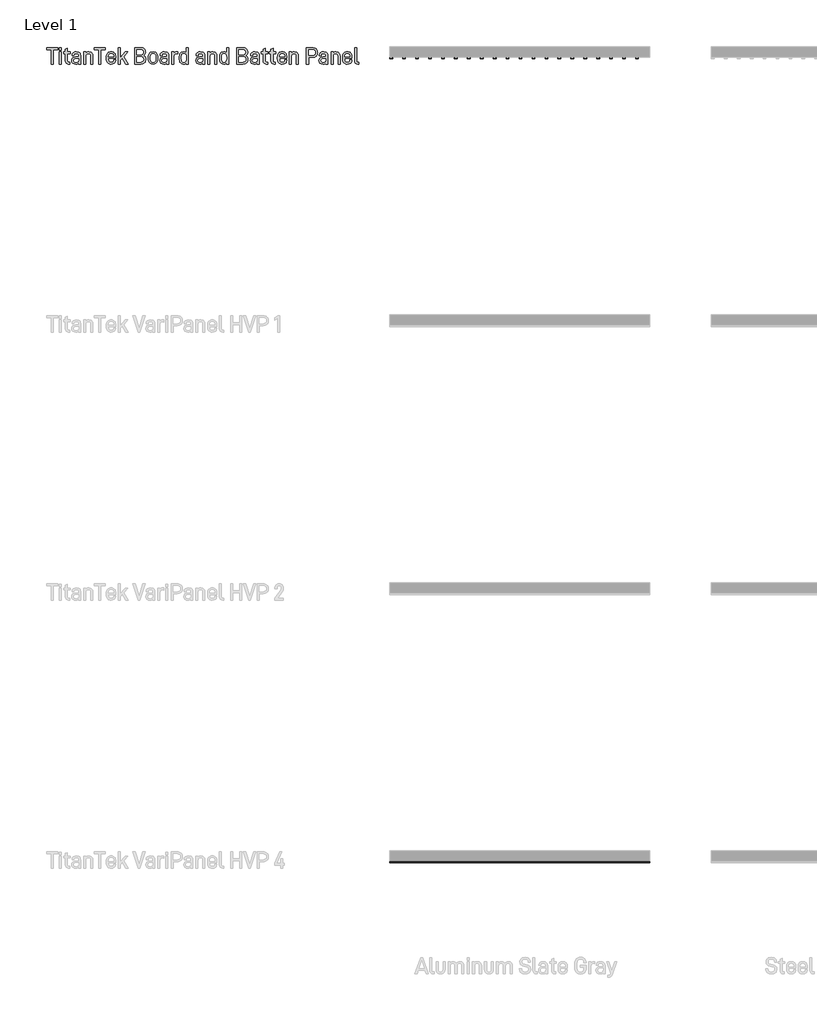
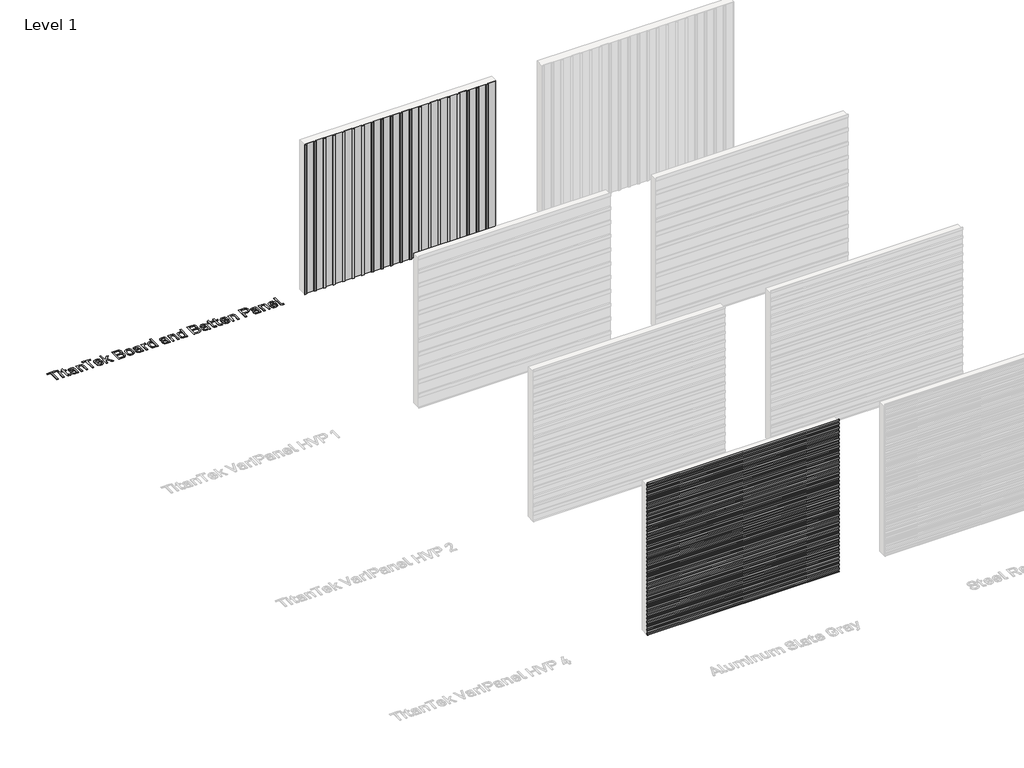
# One storey, part 4 of 9: 3 proxies.
"""IFC4 building model written with IfcOpenShell, lengths in millimetres."""

from ifc_helpers import new_model, si_unit, frame, origin, origin_with_axes, place, context, project, spatial, polyline, outline, extrude, transform, mapped, element, save
from components import titantek_board_and_batten_panel_aluminum_slate_gray_d83a0c41

model = new_model("IFC4")

# Units and contexts
model_context = context("Model", 3, world=origin())
ifc_project = project(units=[si_unit("LENGTHUNIT", "METRE", prefix="MILLI")], contexts=[model_context])

# Site, building, storey
site = spatial("IfcSite", under=ifc_project)
building = spatial("IfcBuilding", under=site)
storey = spatial("IfcBuildingStorey", under=building, Name="Level 1", Elevation=0.0)

# Proxies
placement = place(None, origin())
element("IfcBuildingElementProxy", 1, Name="600mm Arial 2", ObjectType="600mm Arial 2", at=placement, inside=storey, context=model_context, shape_type="SweptSolid", body=[
    extrude(outline(polyline([(-8638.9924556, -2779.5871657), (-8638.9924556, -3047.0126498), (-8678.4439015, -3047.0126498), (-8678.4439015, -2779.5871657), (-8762.8787304, -2779.5871657), (-8762.8787304, -2742.6833224), (-8554.5576267, -2742.6833224), (-8554.5576267, -2779.5871657), (-8638.9924556, -2779.5871657)])), origin_with_axes(), (0.0, 0.0, 1.0), 5.0),
    extrude(outline(polyline([(-8487.1553408, -2746.9778525), (-8487.1553408, -2794.1448949), (-8526.6067867, -2794.1448949), (-8526.6067867, -2746.9778525), (-8487.1553408, -2746.9778525)])), origin_with_axes(), (0.0, 0.0, 1.0), 5.0),
    extrude(outline(polyline([(-8488.0288046, -2821.1494824), (-8488.0288046, -3047.0126498), (-8525.733323, -3047.0126498), (-8525.733323, -2821.1494824), (-8488.0288046, -2821.1494824)])), origin_with_axes(), (0.0, 0.0, 1.0), 5.0),
    extrude(outline(polyline([(-8372.294858, -2987.398749), (-8370.8208879, -2998.4808203), (-8366.3989777, -3006.3965855), (-8359.0291273, -3011.1460446), (-8348.7113368, -3012.7291977), (-8327.2386864, -3012.7291977), (-8327.2386864, -3047.0126498), (-8353.3698101, -3047.0126498), (-8377.1535001, -3043.0456686), (-8395.3688587, -3031.144725), (-8406.6692959, -3012.6018175), (-8410.4361083, -2988.7089446), (-8410.4361083, -2852.8853319), (-8444.2828285, -2852.8853319), (-8444.2828285, -2821.1494824), (-8410.4361083, -2821.1494824), (-8410.4361083, -2773.1089763), (-8372.294858, -2755.1301808), (-8372.294858, -2821.1494824), (-8323.3808881, -2821.1494824), (-8323.3808881, -2852.8853319), (-8372.294858, -2852.8853319), (-8372.294858, -2987.398749)])), origin_with_axes(), (0.0, 0.0, 1.0), 5.0),
    extrude(outline(polyline([(-8146.8684225, -2837.8908709), (-8137.2830677, -2848.6590411), (-8130.4363858, -2861.7473495), (-8124.9590402, -2894.8843804), (-8124.9590402, -3047.0126498), (-8162.2996154, -3047.0126498), (-8162.2996154, -3030.7079931), (-8180.7151427, -3043.1548515), (-8197.7476858, -3047.9589022), (-8217.9829293, -3049.5602524), (-8250.0281305, -3045.2839194), (-8274.1029751, -3032.4549206), (-8289.2248162, -3010.6729184), (-8294.2654299, -2981.4300801), (-8289.1338304, -2953.7885919), (-8273.7390318, -2932.5888988), (-8249.063681, -2919.3777597), (-8217.1094655, -2914.9740466), (-8162.7363472, -2914.9740466), (-8162.7363472, -2894.4476485), (-8165.6296959, -2875.558995), (-8174.3097419, -2861.8383353), (-8188.2305704, -2853.8133871), (-8207.7197302, -2851.1384044), (-8226.2262434, -2853.3948524), (-8239.819523, -2860.1641964), (-8248.1720201, -2870.5183813), (-8250.9561857, -2884.5483927), (-8250.9561857, -2890.1531184), (-8287.8600291, -2890.1531184), (-8287.8600291, -2883.7477176), (-8282.4008807, -2856.7067358), (-8266.0234354, -2835.7072115), (-8240.8203668, -2822.5506638), (-8208.1564621, -2818.1651479), (-8172.6719974, -2823.0965787), (-8158.5600987, -2829.2608671), (-8146.8684225, -2837.8908709)]), holes=[polyline([(-8174.6736851, -3005.4503331), (-8165.7206817, -2990.5468579), (-8162.7363472, -2968.9832216), (-8162.7363472, -2945.0357572), (-8212.8149354, -2945.0357572), (-8231.9538, -2947.2831067), (-8245.6244175, -2954.025155), (-8253.826788, -2965.2619021), (-8256.5609115, -2980.9933482), (-8253.8540837, -2996.9477094), (-8245.7336004, -3008.3436818), (-8232.1994616, -3015.1812652), (-8213.2516673, -3017.4604596), (-8190.104878, -3014.457928), (-8174.6736851, -3005.4503331)])]), origin_with_axes(), (0.0, 0.0, 1.0), 5.0),
    extrude(outline(polyline([(-8030.6977441, -2821.1494824), (-8030.6977441, -2839.5650097), (-8012.2822167, -2826.3174762), (-7995.1222935, -2820.5307789), (-7976.2518372, -2818.6018798), (-7943.9154813, -2824.0610282), (-7930.7907787, -2830.8849637), (-7919.6950595, -2840.4384735), (-7911.0650557, -2852.0209667), (-7904.9007673, -2865.8053165), (-7899.9693365, -2899.9795856), (-7899.9693365, -3047.0126498), (-7937.673855, -3047.0126498), (-7937.673855, -2904.2741157), (-7940.6763866, -2881.8916072), (-7949.6839815, -2866.1328654), (-7964.3781893, -2856.5247642), (-7983.567096, -2853.3220637), (-8002.7378056, -2856.5247642), (-8017.3774219, -2866.1328654), (-8027.0401146, -2882.546705), (-8030.2610122, -2904.2741157), (-8030.2610122, -3047.0126498), (-8067.9655306, -3047.0126498), (-8067.9655306, -2821.1494824), (-8030.6977441, -2821.1494824)])), origin_with_axes(), (0.0, 0.0, 1.0), 5.0),
    extrude(outline(polyline([(-7749.2240514, -2779.5871657), (-7749.2240514, -3047.0126498), (-7788.6754974, -3047.0126498), (-7788.6754974, -2779.5871657), (-7873.1103263, -2779.5871657), (-7873.1103263, -2742.6833224), (-7664.7892225, -2742.6833224), (-7664.7892225, -2779.5871657), (-7749.2240514, -2779.5871657)])), origin_with_axes(), (0.0, 0.0, 1.0), 5.0),
    extrude(outline(polyline([(-7608.5235994, -2952.7513537), (-7605.1025331, -2982.1670651), (-7594.8393341, -3001.1194087), (-7578.3527058, -3011.4099035), (-7556.2613519, -3014.8400684), (-7536.990558, -3012.2742686), (-7522.8513635, -3004.5768694), (-7514.1713175, -2992.8033059), (-7511.2779689, -2977.13555), (-7511.2779689, -2971.6036129), (-7474.3741256, -2971.6036129), (-7474.3741256, -2978.0090137), (-7480.0516399, -3007.1608663), (-7487.1485329, -3019.471246), (-7497.084183, -3030.2712613), (-7523.7976159, -3044.7380046), (-7558.3722226, -3049.5602524), (-7577.3222916, -3048.0612612), (-7594.2843206, -3043.5642877), (-7609.2583098, -3036.0693318), (-7622.2442591, -3025.5763936), (-7632.7371973, -3011.9762901), (-7640.2321532, -2995.1598383), (-7644.7291267, -2975.1270383), (-7646.2281179, -2951.8778899), (-7646.2281179, -2914.1733715), (-7644.7314014, -2891.4678633), (-7640.2412518, -2871.8285769), (-7632.7576691, -2855.2555121), (-7622.2806535, -2841.7486691), (-7609.4971476, -2831.4308786), (-7594.7301511, -2824.0610282), (-7577.979664, -2819.639118), (-7559.2456864, -2818.1651479), (-7540.8438069, -2819.639118), (-7524.2161506, -2824.0610282), (-7509.3627176, -2831.4308786), (-7496.2835079, -2841.7486691), (-7485.9657174, -2855.0917377), (-7478.595867, -2871.610211), (-7474.1739568, -2891.3040889), (-7472.6999867, -2914.1733715), (-7472.6999867, -2944.1622935), (-7608.5235994, -2944.1622935), (-7608.5235994, -2952.7513537)]), holes=[polyline([(-7595.2760659, -2866.5695973), (-7605.2117161, -2884.69397), (-7608.5235994, -2913.2999077), (-7510.4045051, -2913.7366396), (-7510.4045051, -2910.3155733), (-7513.6254027, -2883.0744226), (-7523.2880954, -2865.6961335), (-7538.9012599, -2856.4155812), (-7559.2456864, -2853.3220637), (-7579.60831, -2856.6339471), (-7595.2760659, -2866.5695973)])]), origin_with_axes(), (0.0, 0.0, 1.0), 5.0),
    extrude(outline(polyline([(-7387.391694, -2979.6831526), (-7387.391694, -3047.0126498), (-7425.0962125, -3047.0126498), (-7425.0962125, -2742.6833224), (-7387.391694, -2742.6833224), (-7387.391694, -2929.1678325), (-7299.0990669, -2821.1494824), (-7252.3687564, -2821.1494824), (-7326.5403863, -2908.1319139), (-7241.6688255, -3047.0126498), (-7287.5256722, -3047.0126498), (-7351.7980463, -2937.3201608), (-7387.391694, -2979.6831526)])), origin_with_axes(), (0.0, 0.0, 1.0), 5.0),
    extrude(outline(polyline([(-6924.3103305, -2914.1733715), (-6914.3200889, -2935.882585), (-6910.9900084, -2961.7043571), (-6912.5708868, -2980.5748135), (-6917.313522, -2997.2980048), (-6925.217914, -3011.8739311), (-6936.2840627, -3024.3025923), (-6950.0570393, -3034.2382425), (-6966.0819146, -3041.3351354), (-7004.8873613, -3047.0126498), (-7120.1845759, -3047.0126498), (-7120.1845759, -2742.6833224), (-7007.4349639, -2742.6833224), (-6969.002559, -2748.051485), (-6953.3893945, -2754.7616883), (-6940.1782553, -2764.1559729), (-6929.4783244, -2776.1479022), (-6921.8355166, -2790.2870966), (-6917.2498319, -2806.5735561), (-6915.7212704, -2825.0072806), (-6918.9421679, -2847.8447182), (-6928.6048606, -2868.3165247), (-6940.0508752, -2881.3820866), (-6953.8625207, -2890.5898503), (-6937.0483435, -2900.7802607), (-6924.3103305, -2914.1733715)]), holes=[polyline([(-7080.2963981, -2873.4117299), (-7010.8560302, -2873.4117299), (-6987.5090721, -2870.5183813), (-6969.7304454, -2861.8383353), (-6959.1396975, -2847.262409), (-6955.6094482, -2826.6814194), (-6959.0305145, -2806.22781), (-6969.2937135, -2791.1605604), (-6986.4718339, -2782.1529655), (-7010.492087, -2779.1504339), (-7080.2963981, -2779.1504339), (-7080.2963981, -2873.4117299)]), polyline([(-6965.8726472, -2997.2980048), (-6954.6268014, -2981.648446), (-6950.8781862, -2959.5934864), (-6954.5176185, -2937.9206671), (-6965.4359153, -2922.689643), (-6983.432908, -2913.0815418), (-7008.3084276, -2909.8788414), (-7080.2963981, -2909.8788414), (-7080.2963981, -3010.5455383), (-7008.7451595, -3010.5455383), (-6983.8696398, -3007.2336549), (-6965.8726472, -2997.2980048)])]), origin_with_axes(), (0.0, 0.0, 1.0), 5.0),
    extrude(outline(polyline([(-6839.6571357, -3027.2869268), (-6850.1341514, -3014.3259986), (-6857.617734, -2998.1532714), (-6862.1078836, -2978.7687452), (-6863.6046001, -2956.17242), (-6863.6046001, -2911.5529802), (-6862.1056089, -2889.1477253), (-6857.6086354, -2869.8996778), (-6850.1136796, -2853.8088378), (-6839.6207414, -2840.8752053), (-6826.634792, -2830.9395552), (-6811.6608029, -2823.8426623), (-6775.7487048, -2818.1651479), (-6740.8647464, -2823.8426623), (-6726.1386935, -2830.9395552), (-6713.2232582, -2840.8752053), (-6702.7143975, -2853.6450634), (-6695.2080684, -2869.6813119), (-6690.704271, -2888.9839508), (-6689.2030052, -2911.5529802), (-6689.2030052, -2956.17242), (-6690.704271, -2978.7414495), (-6695.2080684, -2998.0440884), (-6702.7143975, -3014.0803369), (-6713.2232582, -3026.8501949), (-6726.1386935, -3036.7858451), (-6740.8647464, -3043.882738), (-6775.7487048, -3049.5602524), (-6811.8882674, -3043.991921), (-6826.8190383, -3037.0315067), (-6839.6571357, -3027.2869268)]), holes=[polyline([(-6740.2278458, -3001.5925349), (-6730.2376041, -2983.3589792), (-6726.9075236, -2954.4254925), (-6726.9075236, -2913.2999077), (-6730.2376041, -2884.69397), (-6740.2278458, -2866.5695973), (-6755.5134613, -2856.6339471), (-6775.7487048, -2853.3220637), (-6796.7664262, -2856.6339471), (-6812.6525482, -2866.5695973), (-6822.5881983, -2884.69397), (-6825.9000817, -2913.2999077), (-6825.9000817, -2954.4254925), (-6822.5881983, -2983.3589792), (-6812.6525482, -3001.5925349), (-6796.7664262, -3011.528185), (-6775.7487048, -3014.8400684), (-6755.5134613, -3011.528185), (-6740.2278458, -3001.5925349)])]), origin_with_axes(), (0.0, 0.0, 1.0), 5.0),
    extrude(outline(polyline([(-6502.4273405, -2837.8908709), (-6492.8419857, -2848.6590411), (-6485.9953037, -2861.7473495), (-6480.5179582, -2894.8843804), (-6480.5179582, -3047.0126498), (-6517.8585334, -3047.0126498), (-6517.8585334, -3030.7079931), (-6536.2740607, -3043.1548515), (-6553.3066038, -3047.9589022), (-6573.5418473, -3049.5602524), (-6605.5870485, -3045.2839194), (-6629.661893, -3032.4549206), (-6644.7837342, -3010.6729184), (-6649.8243479, -2981.4300801), (-6644.6927484, -2953.7885919), (-6629.2979498, -2932.5888988), (-6604.6225989, -2919.3777597), (-6572.6683835, -2914.9740466), (-6518.2952652, -2914.9740466), (-6518.2952652, -2894.4476485), (-6521.1886139, -2875.558995), (-6529.8686599, -2861.8383353), (-6543.7894884, -2853.8133871), (-6563.2786482, -2851.1384044), (-6581.7851614, -2853.3948524), (-6595.378441, -2860.1641964), (-6603.730938, -2870.5183813), (-6606.5151037, -2884.5483927), (-6606.5151037, -2890.1531184), (-6643.4189471, -2890.1531184), (-6643.4189471, -2883.7477176), (-6637.9597986, -2856.7067358), (-6621.5823534, -2835.7072115), (-6596.3792848, -2822.5506638), (-6563.7153801, -2818.1651479), (-6528.2309154, -2823.0965787), (-6514.1190167, -2829.2608671), (-6502.4273405, -2837.8908709)]), holes=[polyline([(-6530.2326031, -3005.4503331), (-6521.2795997, -2990.5468579), (-6518.2952652, -2968.9832216), (-6518.2952652, -2945.0357572), (-6568.3738534, -2945.0357572), (-6587.5127179, -2947.2831067), (-6601.1833354, -2954.025155), (-6609.3857059, -2965.2619021), (-6612.1198294, -2980.9933482), (-6609.4130017, -2996.9477094), (-6601.2925184, -3008.3436818), (-6587.7583796, -3015.1812652), (-6568.8105853, -3017.4604596), (-6545.663796, -3014.457928), (-6530.2326031, -3005.4503331)])]), origin_with_axes(), (0.0, 0.0, 1.0), 5.0),
    extrude(outline(polyline([(-6333.5576826, -2818.1651479), (-6313.3952278, -2820.2760186), (-6313.3952278, -2859.2907327), (-6339.9630834, -2853.686007), (-6358.2967236, -2857.2253549), (-6372.9727342, -2867.8433985), (-6382.6081312, -2884.2481396), (-6385.8199302, -2905.1475794), (-6385.8199302, -3047.0126498), (-6423.5244486, -3047.0126498), (-6423.5244486, -2821.1494824), (-6386.2566621, -2821.1494824), (-6386.2566621, -2840.8752053), (-6368.7145985, -2826.6814194), (-6352.6101106, -2820.2942158), (-6333.5576826, -2818.1651479)])), origin_with_axes(), (0.0, 0.0, 1.0), 5.0),
    extrude(outline(polyline([(-6153.9880939, -2742.6833224), (-6115.8468436, -2742.6833224), (-6115.8468436, -3047.0126498), (-6153.9880939, -3047.0126498), (-6153.9880939, -3027.7236587), (-6171.1662142, -3040.9711922), (-6187.7620254, -3047.4129873), (-6208.4340008, -3049.5602524), (-6239.2781894, -3043.773555), (-6252.448385, -3036.5401834), (-6264.1173147, -3026.413463), (-6273.6708244, -3013.6709008), (-6280.49476, -2997.7165395), (-6285.9539084, -2956.17242), (-6285.9539084, -2911.5529802), (-6280.49476, -2870.0088608), (-6273.6708244, -2854.0544995), (-6264.1173147, -2841.3119372), (-6252.4210892, -2831.1852169), (-6239.1690064, -2823.9518452), (-6207.9972689, -2818.1651479), (-6191.9291754, -2819.639118), (-6177.5716151, -2824.0610282), (-6164.9245879, -2831.4308786), (-6153.9880939, -2841.7486691), (-6153.9880939, -2742.6833224)]), holes=[polyline([(-6166.8716841, -2998.6082004), (-6157.2089914, -2979.0826462), (-6153.9880939, -2953.9887606), (-6153.9880939, -2915.8475103), (-6157.0998085, -2889.9347525), (-6166.4349523, -2869.5539317), (-6181.6113849, -2857.3800307), (-6202.3925432, -2853.3220637), (-6222.2638435, -2857.070679), (-6236.4576294, -2868.3165247), (-6244.9739009, -2887.059601), (-6247.8126581, -2913.2999077), (-6247.8126581, -2954.4254925), (-6245.0830839, -2980.8568695), (-6236.8943612, -2999.7364244), (-6223.2464902, -3011.0641574), (-6204.1394707, -3014.8400684), (-6182.3756657, -3010.7821014), (-6166.8716841, -2998.6082004)])]), origin_with_axes(), (0.0, 0.0, 1.0), 5.0),
    extrude(outline(polyline([(-5831.6071824, -2837.8908709), (-5822.0218276, -2848.6590411), (-5815.1751456, -2861.7473495), (-5809.6978001, -2894.8843804), (-5809.6978001, -3047.0126498), (-5847.0383753, -3047.0126498), (-5847.0383753, -3030.7079931), (-5865.4539026, -3043.1548515), (-5882.4864457, -3047.9589022), (-5902.7216892, -3049.5602524), (-5934.7668904, -3045.2839194), (-5958.8417349, -3032.4549206), (-5973.9635761, -3010.6729184), (-5979.0041898, -2981.4300801), (-5973.8725903, -2953.7885919), (-5958.4777917, -2932.5888988), (-5933.8024408, -2919.3777597), (-5901.8482254, -2914.9740466), (-5847.4751071, -2914.9740466), (-5847.4751071, -2894.4476485), (-5850.3684558, -2875.558995), (-5859.0485018, -2861.8383353), (-5872.9693303, -2853.8133871), (-5892.4584901, -2851.1384044), (-5910.9650033, -2853.3948524), (-5924.5582829, -2860.1641964), (-5932.9107799, -2870.5183813), (-5935.6949456, -2884.5483927), (-5935.6949456, -2890.1531184), (-5972.598789, -2890.1531184), (-5972.598789, -2883.7477176), (-5967.1396405, -2856.7067358), (-5950.7621953, -2835.7072115), (-5925.5591267, -2822.5506638), (-5892.895222, -2818.1651479), (-5857.4107573, -2823.0965787), (-5843.2988586, -2829.2608671), (-5831.6071824, -2837.8908709)]), holes=[polyline([(-5859.412445, -3005.4503331), (-5850.4594416, -2990.5468579), (-5847.4751071, -2968.9832216), (-5847.4751071, -2945.0357572), (-5897.5536953, -2945.0357572), (-5916.6925598, -2947.2831067), (-5930.3631773, -2954.025155), (-5938.5655478, -2965.2619021), (-5941.2996713, -2980.9933482), (-5938.5928436, -2996.9477094), (-5930.4723603, -3008.3436818), (-5916.9382215, -3015.1812652), (-5897.9904272, -3017.4604596), (-5874.8436379, -3014.457928), (-5859.412445, -3005.4503331)])]), origin_with_axes(), (0.0, 0.0, 1.0), 5.0),
    extrude(outline(polyline([(-5715.436504, -2821.1494824), (-5715.436504, -2839.5650097), (-5697.0209766, -2826.3174762), (-5679.8610534, -2820.5307789), (-5660.990597, -2818.6018798), (-5628.6542412, -2824.0610282), (-5615.5295385, -2830.8849637), (-5604.4338194, -2840.4384735), (-5595.8038156, -2852.0209667), (-5589.6395272, -2865.8053165), (-5584.7080964, -2899.9795856), (-5584.7080964, -3047.0126498), (-5622.4126149, -3047.0126498), (-5622.4126149, -2904.2741157), (-5625.4151465, -2881.8916072), (-5634.4227414, -2866.1328654), (-5649.1169492, -2856.5247642), (-5668.3058559, -2853.3220637), (-5687.4765655, -2856.5247642), (-5702.1161818, -2866.1328654), (-5711.7788745, -2882.546705), (-5714.9997721, -2904.2741157), (-5714.9997721, -3047.0126498), (-5752.7042905, -3047.0126498), (-5752.7042905, -2821.1494824), (-5715.436504, -2821.1494824)])), origin_with_axes(), (0.0, 0.0, 1.0), 5.0),
    extrude(outline(polyline([(-5403.9738893, -2742.6833224), (-5365.832639, -2742.6833224), (-5365.832639, -3047.0126498), (-5403.9738893, -3047.0126498), (-5403.9738893, -3027.7236587), (-5421.1520097, -3040.9711922), (-5437.7478209, -3047.4129873), (-5458.4197963, -3049.5602524), (-5489.2639848, -3043.773555), (-5502.4341804, -3036.5401834), (-5514.1031102, -3026.413463), (-5523.6566199, -3013.6709008), (-5530.4805554, -2997.7165395), (-5535.9397038, -2956.17242), (-5535.9397038, -2911.5529802), (-5530.4805554, -2870.0088608), (-5523.6566199, -2854.0544995), (-5514.1031102, -2841.3119372), (-5502.4068847, -2831.1852169), (-5489.1548019, -2823.9518452), (-5457.9830644, -2818.1651479), (-5441.9149709, -2819.639118), (-5427.5574105, -2824.0610282), (-5414.9103833, -2831.4308786), (-5403.9738893, -2841.7486691), (-5403.9738893, -2742.6833224)]), holes=[polyline([(-5416.8574796, -2998.6082004), (-5407.1947869, -2979.0826462), (-5403.9738893, -2953.9887606), (-5403.9738893, -2915.8475103), (-5407.0856039, -2889.9347525), (-5416.4207477, -2869.5539317), (-5431.5971803, -2857.3800307), (-5452.3783387, -2853.3220637), (-5472.2496389, -2857.070679), (-5486.4434248, -2868.3165247), (-5494.9596964, -2887.059601), (-5497.7984535, -2913.2999077), (-5497.7984535, -2954.4254925), (-5495.0688793, -2980.8568695), (-5486.8801567, -2999.7364244), (-5473.2322856, -3011.0641574), (-5454.1252662, -3014.8400684), (-5432.3614611, -3010.7821014), (-5416.8574796, -2998.6082004)])]), origin_with_axes(), (0.0, 0.0, 1.0), 5.0),
    extrude(outline(polyline([(-5018.9947426, -2914.1733715), (-5009.004501, -2935.882585), (-5005.6744204, -2961.7043571), (-5007.2552988, -2980.5748135), (-5011.997934, -2997.2980048), (-5019.902326, -3011.8739311), (-5030.9684748, -3024.3025923), (-5044.7414513, -3034.2382425), (-5060.7663266, -3041.3351354), (-5099.5717733, -3047.0126498), (-5214.868988, -3047.0126498), (-5214.868988, -2742.6833224), (-5102.1193759, -2742.6833224), (-5063.686971, -2748.051485), (-5048.0738065, -2754.7616883), (-5034.8626673, -2764.1559729), (-5024.1627364, -2776.1479022), (-5016.5199286, -2790.2870966), (-5011.934244, -2806.5735561), (-5010.4056824, -2825.0072806), (-5013.62658, -2847.8447182), (-5023.2892727, -2868.3165247), (-5034.7352872, -2881.3820866), (-5048.5469327, -2890.5898503), (-5031.7327556, -2900.7802607), (-5018.9947426, -2914.1733715)]), holes=[polyline([(-5174.9808102, -2873.4117299), (-5105.5404423, -2873.4117299), (-5082.1934842, -2870.5183813), (-5064.4148575, -2861.8383353), (-5053.8241095, -2847.262409), (-5050.2938602, -2826.6814194), (-5053.7149266, -2806.22781), (-5063.9781256, -2791.1605604), (-5081.156246, -2782.1529655), (-5105.176499, -2779.1504339), (-5174.9808102, -2779.1504339), (-5174.9808102, -2873.4117299)]), polyline([(-5060.5570593, -2997.2980048), (-5049.3112135, -2981.648446), (-5045.5625983, -2959.5934864), (-5049.2020305, -2937.9206671), (-5060.1203274, -2922.689643), (-5078.11732, -2913.0815418), (-5102.9928397, -2909.8788414), (-5174.9808102, -2909.8788414), (-5174.9808102, -3010.5455383), (-5103.4295715, -3010.5455383), (-5078.5540519, -3007.2336549), (-5060.5570593, -2997.2980048)])]), origin_with_axes(), (0.0, 0.0, 1.0), 5.0),
    extrude(outline(polyline([(-4816.0599986, -2837.8908709), (-4806.4746438, -2848.6590411), (-4799.6279618, -2861.7473495), (-4794.1506163, -2894.8843804), (-4794.1506163, -3047.0126498), (-4831.4911915, -3047.0126498), (-4831.4911915, -3030.7079931), (-4849.9067188, -3043.1548515), (-4866.9392619, -3047.9589022), (-4887.1745054, -3049.5602524), (-4919.2197066, -3045.2839194), (-4943.2945511, -3032.4549206), (-4958.4163923, -3010.6729184), (-4963.457006, -2981.4300801), (-4958.3254065, -2953.7885919), (-4942.9306079, -2932.5888988), (-4918.2552571, -2919.3777597), (-4886.3010416, -2914.9740466), (-4831.9279233, -2914.9740466), (-4831.9279233, -2894.4476485), (-4834.821272, -2875.558995), (-4843.501318, -2861.8383353), (-4857.4221465, -2853.8133871), (-4876.9113063, -2851.1384044), (-4895.4178195, -2853.3948524), (-4909.0110991, -2860.1641964), (-4917.3635961, -2870.5183813), (-4920.1477618, -2884.5483927), (-4920.1477618, -2890.1531184), (-4957.0516052, -2890.1531184), (-4957.0516052, -2883.7477176), (-4951.5924567, -2856.7067358), (-4935.2150115, -2835.7072115), (-4910.0119429, -2822.5506638), (-4877.3480382, -2818.1651479), (-4841.8635735, -2823.0965787), (-4827.7516748, -2829.2608671), (-4816.0599986, -2837.8908709)]), holes=[polyline([(-4843.8652612, -3005.4503331), (-4834.9122578, -2990.5468579), (-4831.9279233, -2968.9832216), (-4831.9279233, -2945.0357572), (-4882.0065115, -2945.0357572), (-4901.145376, -2947.2831067), (-4914.8159935, -2954.025155), (-4923.018364, -2965.2619021), (-4925.7524876, -2980.9933482), (-4923.0456598, -2996.9477094), (-4914.9251765, -3008.3436818), (-4901.3910377, -3015.1812652), (-4882.4432434, -3017.4604596), (-4859.2964541, -3014.457928), (-4843.8652612, -3005.4503331)])]), origin_with_axes(), (0.0, 0.0, 1.0), 5.0),
    extrude(outline(polyline([(-4682.7839884, -2987.398749), (-4681.3100184, -2998.4808203), (-4676.8881081, -3006.3965855), (-4669.5182578, -3011.1460446), (-4659.2004673, -3012.7291977), (-4637.7278168, -3012.7291977), (-4637.7278168, -3047.0126498), (-4663.8589406, -3047.0126498), (-4687.6426305, -3043.0456686), (-4705.8579891, -3031.144725), (-4717.1584263, -3012.6018175), (-4720.9252388, -2988.7089446), (-4720.9252388, -2852.8853319), (-4754.771959, -2852.8853319), (-4754.771959, -2821.1494824), (-4720.9252388, -2821.1494824), (-4720.9252388, -2773.1089763), (-4682.7839884, -2755.1301808), (-4682.7839884, -2821.1494824), (-4633.8700186, -2821.1494824), (-4633.8700186, -2852.8853319), (-4682.7839884, -2852.8853319), (-4682.7839884, -2987.398749)])), origin_with_axes(), (0.0, 0.0, 1.0), 5.0),
    extrude(outline(polyline([(-4538.3713155, -2987.398749), (-4536.8973454, -2998.4808203), (-4532.4754352, -3006.3965855), (-4525.1055849, -3011.1460446), (-4514.7877943, -3012.7291977), (-4493.3151439, -3012.7291977), (-4493.3151439, -3047.0126498), (-4519.4462677, -3047.0126498), (-4543.2299576, -3043.0456686), (-4561.4453162, -3031.144725), (-4572.7457534, -3012.6018175), (-4576.5125658, -2988.7089446), (-4576.5125658, -2852.8853319), (-4610.359286, -2852.8853319), (-4610.359286, -2821.1494824), (-4576.5125658, -2821.1494824), (-4576.5125658, -2773.1089763), (-4538.3713155, -2755.1301808), (-4538.3713155, -2821.1494824), (-4489.4573457, -2821.1494824), (-4489.4573457, -2852.8853319), (-4538.3713155, -2852.8853319), (-4538.3713155, -2987.398749)])), origin_with_axes(), (0.0, 0.0, 1.0), 5.0),
    extrude(outline(polyline([(-4417.4693751, -2952.7513537), (-4414.0483088, -2982.1670651), (-4403.7851098, -3001.1194087), (-4387.2984815, -3011.4099035), (-4365.2071276, -3014.8400684), (-4345.9363336, -3012.2742686), (-4331.7971392, -3004.5768694), (-4323.1170932, -2992.8033059), (-4320.2237446, -2977.13555), (-4320.2237446, -2971.6036129), (-4283.3199012, -2971.6036129), (-4283.3199012, -2978.0090137), (-4288.9974156, -3007.1608663), (-4296.0943085, -3019.471246), (-4306.0299587, -3030.2712613), (-4332.7433916, -3044.7380046), (-4367.3179983, -3049.5602524), (-4386.2680673, -3048.0612612), (-4403.2300963, -3043.5642877), (-4418.2040855, -3036.0693318), (-4431.1900348, -3025.5763936), (-4441.682973, -3011.9762901), (-4449.1779289, -2995.1598383), (-4453.6749024, -2975.1270383), (-4455.1738936, -2951.8778899), (-4455.1738936, -2914.1733715), (-4453.677177, -2891.4678633), (-4449.1870275, -2871.8285769), (-4441.7034448, -2855.2555121), (-4431.2264292, -2841.7486691), (-4418.4429233, -2831.4308786), (-4403.6759268, -2824.0610282), (-4386.9254397, -2819.639118), (-4368.191462, -2818.1651479), (-4349.7895826, -2819.639118), (-4333.1619263, -2824.0610282), (-4318.3084933, -2831.4308786), (-4305.2292836, -2841.7486691), (-4294.9114931, -2855.0917377), (-4287.5416427, -2871.610211), (-4283.1197325, -2891.3040889), (-4281.6457624, -2914.1733715), (-4281.6457624, -2944.1622935), (-4417.4693751, -2944.1622935), (-4417.4693751, -2952.7513537)]), holes=[polyline([(-4404.2218416, -2866.5695973), (-4414.1574918, -2884.69397), (-4417.4693751, -2913.2999077), (-4319.3502808, -2913.7366396), (-4319.3502808, -2910.3155733), (-4322.5711784, -2883.0744226), (-4332.2338711, -2865.6961335), (-4347.8470356, -2856.4155812), (-4368.191462, -2853.3220637), (-4388.5540857, -2856.6339471), (-4404.2218416, -2866.5695973)])]), origin_with_axes(), (0.0, 0.0, 1.0), 5.0),
    extrude(outline(polyline([(-4196.7742016, -2821.1494824), (-4196.7742016, -2839.5650097), (-4178.3586742, -2826.3174762), (-4161.198751, -2820.5307789), (-4142.3282947, -2818.6018798), (-4109.9919388, -2824.0610282), (-4096.8672362, -2830.8849637), (-4085.771517, -2840.4384735), (-4077.1415132, -2852.0209667), (-4070.9772248, -2865.8053165), (-4066.045794, -2899.9795856), (-4066.045794, -3047.0126498), (-4103.7503125, -3047.0126498), (-4103.7503125, -2904.2741157), (-4106.7528441, -2881.8916072), (-4115.760439, -2866.1328654), (-4130.4546468, -2856.5247642), (-4149.6435535, -2853.3220637), (-4168.8142631, -2856.5247642), (-4183.4538794, -2866.1328654), (-4193.1165721, -2882.546705), (-4196.3374697, -2904.2741157), (-4196.3374697, -3047.0126498), (-4234.0419882, -3047.0126498), (-4234.0419882, -2821.1494824), (-4196.7742016, -2821.1494824)])), origin_with_axes(), (0.0, 0.0, 1.0), 5.0),
    extrude(outline(polyline([(-3733.4016835, -2766.7035755), (-3721.9693169, -2780.1603763), (-3713.8033407, -2796.073794), (-3708.903755, -2814.4438284), (-3707.2705597, -2835.2704796), (-3708.9310507, -2854.955259), (-3713.9125237, -2872.4472804), (-3722.2149786, -2887.7465438), (-3733.8384154, -2900.8530493), (-3747.8957226, -2911.3619101), (-3764.3732522, -2918.8682391), (-3783.2710044, -2923.3720366), (-3804.588979, -2924.8733024), (-3875.2667539, -2924.8733024), (-3875.2667539, -3047.0126498), (-3915.1549317, -3047.0126498), (-3915.1549317, -2742.6833224), (-3804.588979, -2742.6833224), (-3783.4074831, -2744.1845882), (-3764.4824352, -2748.6883857), (-3747.8138354, -2756.1947147), (-3733.4016835, -2766.7035755)]), holes=[polyline([(-3762.1531985, -2874.7219256), (-3750.9073528, -2858.4172689), (-3747.1587376, -2835.2704796), (-3751.0165358, -2810.6497202), (-3762.5899304, -2793.2714311), (-3781.6605556, -2783.0082321), (-3807.1365815, -2779.5871657), (-3875.2667539, -2779.5871657), (-3875.2667539, -2887.9694591), (-3807.1365815, -2887.9694591), (-3780.8962748, -2884.6575757), (-3762.1531985, -2874.7219256)])]), origin_with_axes(), (0.0, 0.0, 1.0), 5.0),
    extrude(outline(polyline([(-3534.9798355, -2837.8908709), (-3525.3944808, -2848.6590411), (-3518.5477988, -2861.7473495), (-3513.0704532, -2894.8843804), (-3513.0704532, -3047.0126498), (-3550.4110284, -3047.0126498), (-3550.4110284, -3030.7079931), (-3568.8265558, -3043.1548515), (-3585.8590988, -3047.9589022), (-3606.0943423, -3049.5602524), (-3638.1395436, -3045.2839194), (-3662.2143881, -3032.4549206), (-3677.3362292, -3010.6729184), (-3682.3768429, -2981.4300801), (-3677.2452434, -2953.7885919), (-3661.8504449, -2932.5888988), (-3637.175094, -2919.3777597), (-3605.2208786, -2914.9740466), (-3550.8477603, -2914.9740466), (-3550.8477603, -2894.4476485), (-3553.741109, -2875.558995), (-3562.4211549, -2861.8383353), (-3576.3419834, -2853.8133871), (-3595.8311433, -2851.1384044), (-3614.3376564, -2853.3948524), (-3627.930936, -2860.1641964), (-3636.2834331, -2870.5183813), (-3639.0675988, -2884.5483927), (-3639.0675988, -2890.1531184), (-3675.9714421, -2890.1531184), (-3675.9714421, -2883.7477176), (-3670.5122937, -2856.7067358), (-3654.1348484, -2835.7072115), (-3628.9317799, -2822.5506638), (-3596.2678752, -2818.1651479), (-3560.7834104, -2823.0965787), (-3546.6715118, -2829.2608671), (-3534.9798355, -2837.8908709)]), holes=[polyline([(-3562.7850982, -3005.4503331), (-3553.8320948, -2990.5468579), (-3550.8477603, -2968.9832216), (-3550.8477603, -2945.0357572), (-3600.9263485, -2945.0357572), (-3620.065213, -2947.2831067), (-3633.7358305, -2954.025155), (-3641.938201, -2965.2619021), (-3644.6723245, -2980.9933482), (-3641.9654967, -2996.9477094), (-3633.8450135, -3008.3436818), (-3620.3108747, -3015.1812652), (-3601.3630804, -3017.4604596), (-3578.216291, -3014.457928), (-3562.7850982, -3005.4503331)])]), origin_with_axes(), (0.0, 0.0, 1.0), 5.0),
    extrude(outline(polyline([(-3418.8091571, -2821.1494824), (-3418.8091571, -2839.5650097), (-3400.3936298, -2826.3174762), (-3383.2337066, -2820.5307789), (-3364.3632502, -2818.6018798), (-3332.0268944, -2824.0610282), (-3318.9021917, -2830.8849637), (-3307.8064725, -2840.4384735), (-3299.1764687, -2852.0209667), (-3293.0121803, -2865.8053165), (-3288.0807496, -2899.9795856), (-3288.0807496, -3047.0126498), (-3325.785268, -3047.0126498), (-3325.785268, -2904.2741157), (-3328.7877996, -2881.8916072), (-3337.7953945, -2866.1328654), (-3352.4896024, -2856.5247642), (-3371.6785091, -2853.3220637), (-3390.8492186, -2856.5247642), (-3405.488835, -2866.1328654), (-3415.1515277, -2882.546705), (-3418.3724253, -2904.2741157), (-3418.3724253, -3047.0126498), (-3456.0769437, -3047.0126498), (-3456.0769437, -2821.1494824), (-3418.8091571, -2821.1494824)])), origin_with_axes(), (0.0, 0.0, 1.0), 5.0),
    extrude(outline(polyline([(-3201.6078386, -2952.7513537), (-3198.1867722, -2982.1670651), (-3187.9235732, -3001.1194087), (-3171.436945, -3011.4099035), (-3149.345591, -3014.8400684), (-3130.0747971, -3012.2742686), (-3115.9356027, -3004.5768694), (-3107.2555567, -2992.8033059), (-3104.362208, -2977.13555), (-3104.362208, -2971.6036129), (-3067.4583647, -2971.6036129), (-3067.4583647, -2978.0090137), (-3073.135879, -3007.1608663), (-3080.232772, -3019.471246), (-3090.1684221, -3030.2712613), (-3116.8818551, -3044.7380046), (-3151.4564617, -3049.5602524), (-3170.4065307, -3048.0612612), (-3187.3685598, -3043.5642877), (-3202.342549, -3036.0693318), (-3215.3284983, -3025.5763936), (-3225.8214365, -3011.9762901), (-3233.3163923, -2995.1598383), (-3237.8133658, -2975.1270383), (-3239.312357, -2951.8778899), (-3239.312357, -2914.1733715), (-3237.8156405, -2891.4678633), (-3233.3254909, -2871.8285769), (-3225.8419083, -2855.2555121), (-3215.3648926, -2841.7486691), (-3202.5813867, -2831.4308786), (-3187.8143902, -2824.0610282), (-3171.0639032, -2819.639118), (-3152.3299255, -2818.1651479), (-3133.928046, -2819.639118), (-3117.3003898, -2824.0610282), (-3102.4469568, -2831.4308786), (-3089.367747, -2841.7486691), (-3079.0499565, -2855.0917377), (-3071.6801061, -2871.610211), (-3067.2581959, -2891.3040889), (-3065.7842258, -2914.1733715), (-3065.7842258, -2944.1622935), (-3201.6078386, -2944.1622935), (-3201.6078386, -2952.7513537)]), holes=[polyline([(-3188.3603051, -2866.5695973), (-3198.2959552, -2884.69397), (-3201.6078386, -2913.2999077), (-3103.4887443, -2913.7366396), (-3103.4887443, -2910.3155733), (-3106.7096418, -2883.0744226), (-3116.3723345, -2865.6961335), (-3131.985499, -2856.4155812), (-3152.3299255, -2853.3220637), (-3172.6925491, -2856.6339471), (-3188.3603051, -2866.5695973)])]), origin_with_axes(), (0.0, 0.0, 1.0), 5.0),
    extrude(outline(polyline([(-3003.1859906, -3031.144725), (-3014.4318363, -3011.637368), (-3018.1804516, -2985.7246101), (-3018.1804516, -2742.6833224), (-2980.4759332, -2742.6833224), (-2980.4759332, -2983.9776826), (-2979.0929489, -2997.3889906), (-2974.9439961, -3005.887065), (-2967.9562861, -3010.3635667), (-2957.3291438, -3011.8557339), (-2935.4925502, -3011.8557339), (-2935.4925502, -3047.0126498), (-2960.3134783, -3047.0126498), (-2985.188998, -3043.0456686), (-3003.1859906, -3031.144725)])), origin_with_axes(), (0.0, 0.0, 1.0), 5.0),
])
element("IfcBuildingElementProxy", 2, Name="TitanTek VariPanel HVP 4 : Aluminum Slate Gray", ObjectType="TitanTek VariPanel HVP 4 : Aluminum Slate Gray", at=placement, inside=storey, context=model_context, shape_type="SweptSolid", body=[
    extrude(outline(polyline([(-17945.79831, 375.054257), (-17921.3904975, 350.0739785), (-17921.3904975, 318.3239785), (-17945.79831, 308.9546971), (-17945.79831, 272.0693579), (-17921.3904975, 247.0890794), (-17921.3904975, 215.3390794), (-17945.79831, 205.9697981), (-17945.79831, 169.0844589), (-17921.3904975, 144.1041804), (-17921.3904975, 112.3541804), (-17945.79831, 102.984899), (-17945.79831, 66.0995599), (-17921.3904975, 41.1192814), (-17921.3904975, 9.3692814), (-17945.79831, 0.0), (-17945.79831, 1.0627767), (-17922.382685, 10.051193), (-17922.382685, 40.7150244), (-17946.7904975, 65.6953029), (-17946.7904975, 103.6668106), (-17922.382685, 113.036092), (-17922.382685, 143.6999234), (-17946.7904975, 168.6802019), (-17946.7904975, 206.6517096), (-17922.382685, 216.020991), (-17922.382685, 246.6848225), (-17946.7904975, 271.665101), (-17946.7904975, 309.6366087), (-17922.382685, 319.00589), (-17922.382685, 349.6697215), (-17946.7904975, 374.65), (-17946.7904975, 407.0819116), (-17945.79831, 407.4627767), (-17945.79831, 375.054257)])), frame((-2360.5897817, 0.0, 0.0), z_axis=(1.0, 0.0, 0.0), x_axis=(0.0, 1.0, 0.0)), (0.0, 0.0, 1.0), 4850.0),
    extrude(outline(polyline([(-17945.79831, 781.454257), (-17921.3904975, 756.4739785), (-17921.3904975, 724.7239785), (-17945.79831, 715.3546971), (-17945.79831, 678.4693579), (-17921.3904975, 653.4890794), (-17921.3904975, 621.7390794), (-17945.79831, 612.3697981), (-17945.79831, 575.4844589), (-17921.3904975, 550.5041804), (-17921.3904975, 518.7541804), (-17945.79831, 509.384899), (-17945.79831, 472.4995599), (-17921.3904975, 447.5192814), (-17921.3904975, 415.7692814), (-17945.79831, 406.4), (-17945.79831, 407.4627767), (-17922.382685, 416.451193), (-17922.382685, 447.1150244), (-17946.7904975, 472.0953029), (-17946.7904975, 510.0668106), (-17922.382685, 519.436092), (-17922.382685, 550.0999234), (-17946.7904975, 575.0802019), (-17946.7904975, 613.0517096), (-17922.382685, 622.420991), (-17922.382685, 653.0848225), (-17946.7904975, 678.065101), (-17946.7904975, 716.0366087), (-17922.382685, 725.40589), (-17922.382685, 756.0697215), (-17946.7904975, 781.05), (-17946.7904975, 813.4819116), (-17945.79831, 813.8627767), (-17945.79831, 781.454257)])), frame((-2360.5897817, 0.0, 0.0), z_axis=(1.0, 0.0, 0.0), x_axis=(0.0, 1.0, 0.0)), (0.0, 0.0, 1.0), 4850.0),
    extrude(outline(polyline([(-17945.79831, 1187.854257), (-17921.3904975, 1162.8739785), (-17921.3904975, 1131.1239785), (-17945.79831, 1121.7546971), (-17945.79831, 1084.8693579), (-17921.3904975, 1059.8890794), (-17921.3904975, 1028.1390794), (-17945.79831, 1018.7697981), (-17945.79831, 981.8844589), (-17921.3904975, 956.9041804), (-17921.3904975, 925.1541804), (-17945.79831, 915.784899), (-17945.79831, 878.8995599), (-17921.3904975, 853.9192814), (-17921.3904975, 822.1692814), (-17945.79831, 812.8), (-17945.79831, 813.8627767), (-17922.382685, 822.851193), (-17922.382685, 853.5150244), (-17946.7904975, 878.4953029), (-17946.7904975, 916.4668106), (-17922.382685, 925.836092), (-17922.382685, 956.4999234), (-17946.7904975, 981.4802019), (-17946.7904975, 1019.4517096), (-17922.382685, 1028.820991), (-17922.382685, 1059.4848225), (-17946.7904975, 1084.465101), (-17946.7904975, 1122.4366087), (-17922.382685, 1131.80589), (-17922.382685, 1162.4697215), (-17946.7904975, 1187.45), (-17946.7904975, 1219.8819116), (-17945.79831, 1220.2627767), (-17945.79831, 1187.854257)])), frame((-2360.5897817, 0.0, 0.0), z_axis=(1.0, 0.0, 0.0), x_axis=(0.0, 1.0, 0.0)), (0.0, 0.0, 1.0), 4850.0),
    extrude(outline(polyline([(-17945.79831, 1594.254257), (-17921.3904975, 1569.2739785), (-17921.3904975, 1537.5239785), (-17945.79831, 1528.1546971), (-17945.79831, 1491.2693579), (-17921.3904975, 1466.2890794), (-17921.3904975, 1434.5390794), (-17945.79831, 1425.1697981), (-17945.79831, 1388.2844589), (-17921.3904975, 1363.3041804), (-17921.3904975, 1331.5541804), (-17945.79831, 1322.184899), (-17945.79831, 1285.2995599), (-17921.3904975, 1260.3192814), (-17921.3904975, 1228.5692814), (-17945.79831, 1219.2), (-17945.79831, 1220.2627767), (-17922.382685, 1229.251193), (-17922.382685, 1259.9150244), (-17946.7904975, 1284.8953029), (-17946.7904975, 1322.8668106), (-17922.382685, 1332.236092), (-17922.382685, 1362.8999234), (-17946.7904975, 1387.8802019), (-17946.7904975, 1425.8517096), (-17922.382685, 1435.220991), (-17922.382685, 1465.8848225), (-17946.7904975, 1490.865101), (-17946.7904975, 1528.8366087), (-17922.382685, 1538.20589), (-17922.382685, 1568.8697215), (-17946.7904975, 1593.85), (-17946.7904975, 1626.2819116), (-17945.79831, 1626.6627767), (-17945.79831, 1594.254257)])), frame((-2360.5897817, 0.0, 0.0), z_axis=(1.0, 0.0, 0.0), x_axis=(0.0, 1.0, 0.0)), (0.0, 0.0, 1.0), 4850.0),
    extrude(outline(polyline([(-17945.79831, 2000.654257), (-17921.3904975, 1975.6739785), (-17921.3904975, 1943.9239785), (-17945.79831, 1934.5546971), (-17945.79831, 1897.6693579), (-17921.3904975, 1872.6890794), (-17921.3904975, 1840.9390794), (-17945.79831, 1831.5697981), (-17945.79831, 1794.6844589), (-17921.3904975, 1769.7041804), (-17921.3904975, 1737.9541804), (-17945.79831, 1728.584899), (-17945.79831, 1691.6995599), (-17921.3904975, 1666.7192814), (-17921.3904975, 1634.9692814), (-17945.79831, 1625.6), (-17945.79831, 1626.6627767), (-17922.382685, 1635.651193), (-17922.382685, 1666.3150244), (-17946.7904975, 1691.2953029), (-17946.7904975, 1729.2668106), (-17922.382685, 1738.636092), (-17922.382685, 1769.2999234), (-17946.7904975, 1794.2802019), (-17946.7904975, 1832.2517096), (-17922.382685, 1841.620991), (-17922.382685, 1872.2848225), (-17946.7904975, 1897.265101), (-17946.7904975, 1935.2366087), (-17922.382685, 1944.60589), (-17922.382685, 1975.2697215), (-17946.7904975, 2000.25), (-17946.7904975, 2032.6819116), (-17945.79831, 2033.0627767), (-17945.79831, 2000.654257)])), frame((-2360.5897817, 0.0, 0.0), z_axis=(1.0, 0.0, 0.0), x_axis=(0.0, 1.0, 0.0)), (0.0, 0.0, 1.0), 4850.0),
    extrude(outline(polyline([(-17945.79831, 2407.054257), (-17921.3904975, 2382.0739785), (-17921.3904975, 2350.3239785), (-17945.79831, 2340.9546971), (-17945.79831, 2304.0693579), (-17921.3904975, 2279.0890794), (-17921.3904975, 2247.3390794), (-17945.79831, 2237.9697981), (-17945.79831, 2201.0844589), (-17921.3904975, 2176.1041804), (-17921.3904975, 2144.3541804), (-17945.79831, 2134.984899), (-17945.79831, 2098.0995599), (-17921.3904975, 2073.1192814), (-17921.3904975, 2041.3692814), (-17945.79831, 2032.0), (-17945.79831, 2033.0627767), (-17922.382685, 2042.051193), (-17922.382685, 2072.7150244), (-17946.7904975, 2097.6953029), (-17946.7904975, 2135.6668106), (-17922.382685, 2145.036092), (-17922.382685, 2175.6999234), (-17946.7904975, 2200.6802019), (-17946.7904975, 2238.6517096), (-17922.382685, 2248.020991), (-17922.382685, 2278.6848225), (-17946.7904975, 2303.665101), (-17946.7904975, 2341.6366087), (-17922.382685, 2351.00589), (-17922.382685, 2381.6697215), (-17946.7904975, 2406.65), (-17946.7904975, 2439.0819116), (-17945.79831, 2439.4627767), (-17945.79831, 2407.054257)])), frame((-2360.5897817, 0.0, 0.0), z_axis=(1.0, 0.0, 0.0), x_axis=(0.0, 1.0, 0.0)), (0.0, 0.0, 1.0), 4850.0),
    extrude(outline(polyline([(-17945.79831, 2813.454257), (-17921.3904975, 2788.4739785), (-17921.3904975, 2756.7239785), (-17945.79831, 2747.3546971), (-17945.79831, 2710.4693579), (-17921.3904975, 2685.4890794), (-17921.3904975, 2653.7390794), (-17945.79831, 2644.3697981), (-17945.79831, 2607.4844589), (-17921.3904975, 2582.5041804), (-17921.3904975, 2550.7541804), (-17945.79831, 2541.384899), (-17945.79831, 2504.4995599), (-17921.3904975, 2479.5192814), (-17921.3904975, 2447.7692814), (-17945.79831, 2438.4), (-17945.79831, 2439.4627767), (-17922.382685, 2448.451193), (-17922.382685, 2479.1150244), (-17946.7904975, 2504.0953029), (-17946.7904975, 2542.0668106), (-17922.382685, 2551.436092), (-17922.382685, 2582.0999234), (-17946.7904975, 2607.0802019), (-17946.7904975, 2645.0517096), (-17922.382685, 2654.420991), (-17922.382685, 2685.0848225), (-17946.7904975, 2710.065101), (-17946.7904975, 2748.0366087), (-17922.382685, 2757.40589), (-17922.382685, 2788.0697215), (-17946.7904975, 2813.05), (-17946.7904975, 2845.4819116), (-17945.79831, 2845.8627767), (-17945.79831, 2813.454257)])), frame((-2360.5897817, 0.0, 0.0), z_axis=(1.0, 0.0, 0.0), x_axis=(0.0, 1.0, 0.0)), (0.0, 0.0, 1.0), 4850.0),
    extrude(outline(polyline([(-17945.79831, 3219.854257), (-17921.3904975, 3194.8739785), (-17921.3904975, 3163.1239785), (-17945.79831, 3153.7546971), (-17945.79831, 3116.8693579), (-17921.3904975, 3091.8890794), (-17921.3904975, 3060.1390794), (-17945.79831, 3050.7697981), (-17945.79831, 3013.8844589), (-17921.3904975, 2988.9041804), (-17921.3904975, 2957.1541804), (-17945.79831, 2947.784899), (-17945.79831, 2910.8995599), (-17921.3904975, 2885.9192814), (-17921.3904975, 2854.1692814), (-17945.79831, 2844.8), (-17945.79831, 2845.8627767), (-17922.382685, 2854.851193), (-17922.382685, 2885.5150244), (-17946.7904975, 2910.4953029), (-17946.7904975, 2948.4668106), (-17922.382685, 2957.836092), (-17922.382685, 2988.4999234), (-17946.7904975, 3013.4802019), (-17946.7904975, 3051.4517096), (-17922.382685, 3060.820991), (-17922.382685, 3091.4848225), (-17946.7904975, 3116.465101), (-17946.7904975, 3154.4366087), (-17922.382685, 3163.80589), (-17922.382685, 3194.4697215), (-17946.7904975, 3219.45), (-17946.7904975, 3251.8819116), (-17945.79831, 3252.2627767), (-17945.79831, 3219.854257)])), frame((-2360.5897817, 0.0, 0.0), z_axis=(1.0, 0.0, 0.0), x_axis=(0.0, 1.0, 0.0)), (0.0, 0.0, 1.0), 4850.0),
    extrude(outline(polyline([(-17945.79831, 3626.254257), (-17921.3904975, 3601.2739785), (-17921.3904975, 3569.5239785), (-17945.79831, 3560.1546971), (-17945.79831, 3523.2693579), (-17921.3904975, 3498.2890794), (-17921.3904975, 3466.5390794), (-17945.79831, 3457.1697981), (-17945.79831, 3420.2844589), (-17921.3904975, 3395.3041804), (-17921.3904975, 3363.5541804), (-17945.79831, 3354.184899), (-17945.79831, 3317.2995599), (-17921.3904975, 3292.3192814), (-17921.3904975, 3260.5692814), (-17945.79831, 3251.2), (-17945.79831, 3252.2627767), (-17922.382685, 3261.251193), (-17922.382685, 3291.9150244), (-17946.7904975, 3316.8953029), (-17946.7904975, 3354.8668106), (-17922.382685, 3364.236092), (-17922.382685, 3394.8999234), (-17946.7904975, 3419.8802019), (-17946.7904975, 3457.8517096), (-17922.382685, 3467.220991), (-17922.382685, 3497.8848225), (-17946.7904975, 3522.865101), (-17946.7904975, 3560.8366087), (-17922.382685, 3570.20589), (-17922.382685, 3600.8697215), (-17946.7904975, 3625.85), (-17946.7904975, 3658.2819116), (-17945.79831, 3658.6627767), (-17945.79831, 3626.254257)])), frame((-2360.5897817, 0.0, 0.0), z_axis=(1.0, 0.0, 0.0), x_axis=(0.0, 1.0, 0.0)), (0.0, 0.0, 1.0), 4850.0),
    extrude(outline(polyline([(-17945.79831, 4032.654257), (-17921.3904975, 4007.6739785), (-17921.3904975, 3975.9239785), (-17945.79831, 3966.5546971), (-17945.79831, 3929.6693579), (-17921.3904975, 3904.6890794), (-17921.3904975, 3872.9390794), (-17945.79831, 3863.5697981), (-17945.79831, 3826.6844589), (-17921.3904975, 3801.7041804), (-17921.3904975, 3769.9541804), (-17945.79831, 3760.584899), (-17945.79831, 3723.6995599), (-17921.3904975, 3698.7192814), (-17921.3904975, 3666.9692814), (-17945.79831, 3657.6), (-17945.79831, 3658.6627767), (-17922.382685, 3667.651193), (-17922.382685, 3698.3150244), (-17946.7904975, 3723.2953029), (-17946.7904975, 3761.2668106), (-17922.382685, 3770.636092), (-17922.382685, 3801.2999234), (-17946.7904975, 3826.2802019), (-17946.7904975, 3864.2517096), (-17922.382685, 3873.620991), (-17922.382685, 3904.2848225), (-17946.7904975, 3929.265101), (-17946.7904975, 3967.2366087), (-17922.382685, 3976.60589), (-17922.382685, 4007.2697215), (-17946.7904975, 4032.25), (-17946.7904975, 4064.6819116), (-17945.79831, 4065.0627767), (-17945.79831, 4032.654257)])), frame((-2360.5897817, 0.0, 0.0), z_axis=(1.0, 0.0, 0.0), x_axis=(0.0, 1.0, 0.0)), (0.0, 0.0, 1.0), 4850.0),
])
titantek_board_and_batten_panel_aluminum_slate_gray_shape = titantek_board_and_batten_panel_aluminum_slate_gray_d83a0c41(model_context)
element("IfcBuildingElementProxy", 3, Name="TitanTek Board and Batten Panel : Aluminum Slate Gray", ObjectType="TitanTek Board and Batten Panel : Aluminum Slate Gray", at=placement, inside=storey, context=model_context, shape_type="MappedRepresentation", body=[
    mapped(titantek_board_and_batten_panel_aluminum_slate_gray_shape, transform((-2360.5897817, -2921.3904975, 0.0), x_axis=(1.0, 0.0, 0.0), y_axis=(0.0, 1.0, 0.0), z_axis=(0.0, 0.0, 1.0))),
])

save(model, "model.ifc")
